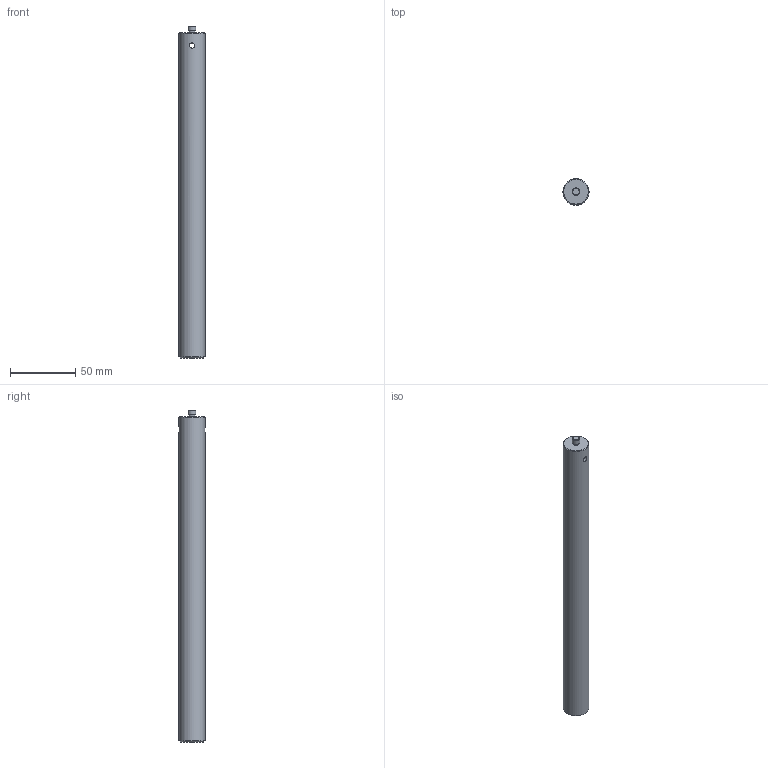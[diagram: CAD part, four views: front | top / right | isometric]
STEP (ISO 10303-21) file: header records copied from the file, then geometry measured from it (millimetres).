
FILE_DESCRIPTION((''),'2;1');
FILE_NAME('S:\1規格品図面ﾃﾞｰﾀ\OpticalHard\01_国内製品\3_Bases\RO\RO-20\RO-20-250\RO-20-250.stp','2007-10-24T16:39:26',('okegawa'),(''),'Autodesk Inventor 11','Autodesk Inventor 11','');
FILE_SCHEMA(('AUTOMOTIVE_DESIGN { 1 0 10303 214 1 1 1 1 }'));
Length unit declared in the file: millimetre
Products named in the file (1): RO-20-250-01-S01
Bounding box: 20 x 20 x 255 mm (x, y, z)
Volume: 78380.4 mm3; surface area: 16604.9 mm2
Topology: 1 solids, 1 shells, 11 faces, 20 edges, 13 vertices
Faces by surface type: cylinder 4, plane 4, cone 3
Full cylindrical faces by diameter (mm): 4 x1, 5 x1, 6 x1, 20 x1
Entity records: 372 total; most frequent: CARTESIAN_POINT 156, DIRECTION 42, ORIENTED_EDGE 24, EDGE_LOOP 22, AXIS2_PLACEMENT_3D 21, VERTEX_POINT 12, EDGE_CURVE 12, FACE_OUTER_BOUND 11
